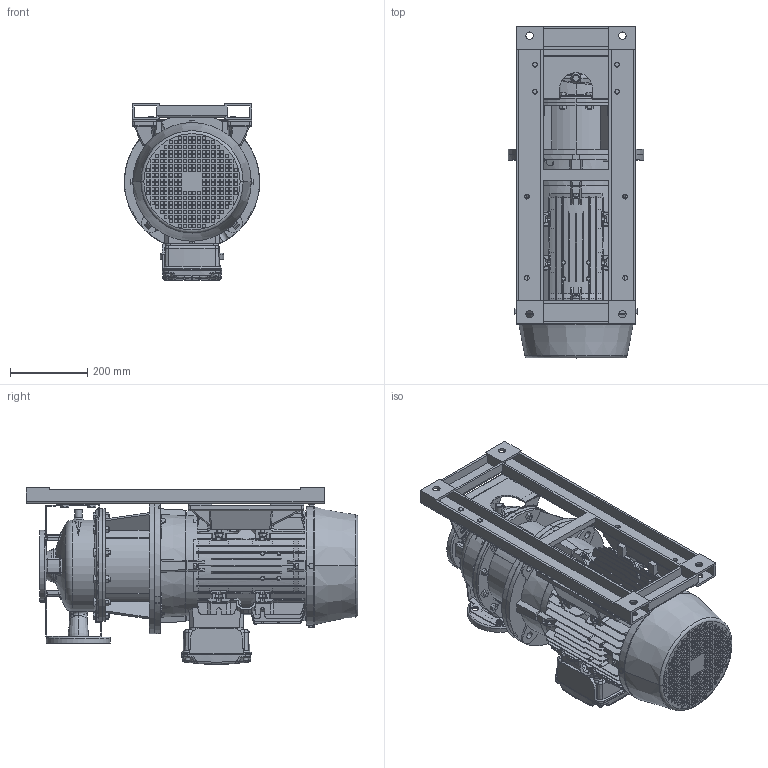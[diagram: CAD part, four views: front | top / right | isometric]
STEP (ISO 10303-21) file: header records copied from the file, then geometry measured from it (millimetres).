
FILE_DESCRIPTION (( 'STEP AP214' ), '1' );
FILE_NAME ('3LS 50-200_11.0 & 15.0_(160ML)_W21.STEP', '2026-09-08T23:30:35', ( '' ), ( '' ), 'SwSTEP 2.0', 'SolidWorks 2024', '' );
FILE_SCHEMA (( 'AUTOMOTIVE_DESIGN' ));
Length unit declared in the file: inch
Products named in the file (3): 160M_L_ALIE3_W21T_B35; 50-200_11; 3LS 50-200_11.0 & 15.0_(160ML)_W21
Assembly tree (2 placements, depth 2):
  3LS 50-200_11.0 & 15.0_(160ML)_W21
    50-200_11
    160M_L_ALIE3_W21T_B35
Bounding box: 350 x 857.3 x 456.5 mm (x, y, z)
Volume: 43874928.9 mm3; surface area: 3537277.8 mm2
Topology: 43 solids, 49 shells, 5574 faces, 14399 edges, 9348 vertices
Faces by surface type: plane 3686, cylinder 885, cone 487, bspline 355, torus 141, sphere 20
Entity records: 198357 total; most frequent: CARTESIAN_POINT 66057, ORIENTED_EDGE 28746, DIRECTION 24832, EDGE_CURVE 14373, VECTOR 9658, LINE 9658, VERTEX_POINT 9346, AXIS2_PLACEMENT_3D 7587
